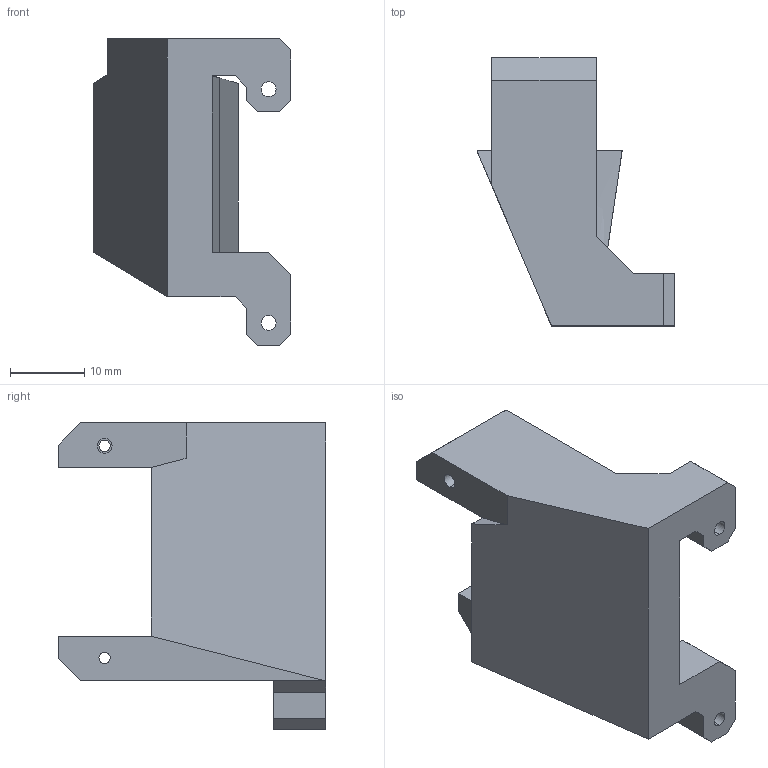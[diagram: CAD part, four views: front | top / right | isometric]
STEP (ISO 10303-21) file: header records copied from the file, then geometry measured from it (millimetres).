
FILE_DESCRIPTION (( 'STEP AP203' ), '1' );
FILE_NAME ('CAMTILT-SERVO-MOUNT-R1.STEP', '2016-04-26T21:43:48', ( '' ), ( '' ), 'SwSTEP 2.0', 'SolidWorks 2014', '' );
FILE_SCHEMA (( 'CONFIG_CONTROL_DESIGN' ));
Length unit declared in the file: millimetre
Products named in the file (1): CAMTILT-SERVO-MOUNT-R1
Bounding box: 26.6 x 36 x 41.2 mm (x, y, z)
Volume: 12077.4 mm3; surface area: 4761.6 mm2
Topology: 1 solids, 1 shells, 54 faces, 148 edges, 97 vertices
Faces by surface type: plane 40, cylinder 10, bspline 4
Entity records: 2108 total; most frequent: CARTESIAN_POINT 653, ORIENTED_EDGE 296, DIRECTION 261, EDGE_CURVE 148, LINE 119, VECTOR 119, VERTEX_POINT 97, AXIS2_PLACEMENT_3D 71
